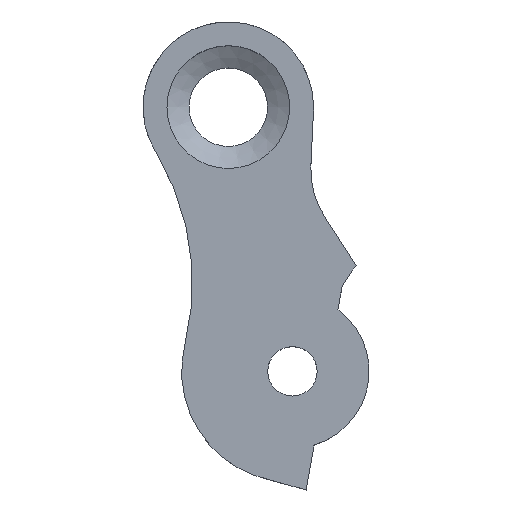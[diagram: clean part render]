
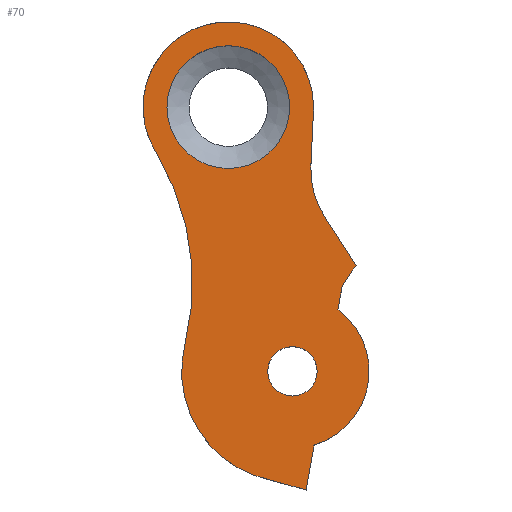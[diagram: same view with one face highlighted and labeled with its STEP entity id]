
A CAD part, top view. The second image highlights one B-rep face of the part: STEP entity #70.
In plain terms, the highlighted planar face has unit normal (0, 0, 1).
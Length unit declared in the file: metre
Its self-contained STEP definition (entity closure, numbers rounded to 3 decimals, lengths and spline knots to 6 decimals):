
#70 = ADVANCED_FACE( 'NONE', ( #145, #146, #147 ), #148, .T. );
#145 = FACE_OUTER_BOUND( '', #223, .T. );
#146 = FACE_BOUND( '', #224, .T. );
#147 = FACE_BOUND( '', #225, .T. );
#148 = PLANE( '', #226 );
#223 = EDGE_LOOP( '', ( #348, #349, #350, #351, #352, #353, #354, #355, #356, #357, #358 ) );
#224 = EDGE_LOOP( '', ( #359 ) );
#225 = EDGE_LOOP( '', ( #360 ) );
#226 = AXIS2_PLACEMENT_3D( '', #361, #362, #363 );
#348 = ORIENTED_EDGE( '', *, *, #420, .F. );
#349 = ORIENTED_EDGE( '', *, *, #425, .F. );
#350 = ORIENTED_EDGE( '', *, *, #415, .F. );
#351 = ORIENTED_EDGE( '', *, *, #458, .T. );
#352 = ORIENTED_EDGE( '', *, *, #441, .F. );
#353 = ORIENTED_EDGE( '', *, *, #464, .F. );
#354 = ORIENTED_EDGE( '', *, *, #428, .F. );
#355 = ORIENTED_EDGE( '', *, *, #465, .T. );
#356 = ORIENTED_EDGE( '', *, *, #438, .T. );
#357 = ORIENTED_EDGE( '', *, *, #454, .T. );
#358 = ORIENTED_EDGE( '', *, *, #462, .T. );
#359 = ORIENTED_EDGE( '', *, *, #449, .F. );
#360 = ORIENTED_EDGE( '', *, *, #446, .F. );
#361 = CARTESIAN_POINT( '', ( -0.011738, 0., 0.01466 ) );
#362 = DIRECTION( '', ( 0., 0., 1. ) );
#363 = DIRECTION( '', ( 1., 0., 0. ) );
#415 = EDGE_CURVE( 'NONE', #477, #478, #479, .T. );
#420 = EDGE_CURVE( 'NONE', #486, #487, #488, .T. );
#425 = EDGE_CURVE( 'NONE', #478, #486, #495, .T. );
#428 = EDGE_CURVE( 'NONE', #498, #499, #500, .T. );
#438 = EDGE_CURVE( 'NONE', #517, #515, #518, .T. );
#441 = EDGE_CURVE( 'NONE', #521, #522, #523, .T. );
#446 = EDGE_CURVE( '', #530, #530, #531, .T. );
#449 = EDGE_CURVE( 'NONE', #535, #535, #536, .T. );
#454 = EDGE_CURVE( 'NONE', #515, #542, #544, .T. );
#458 = EDGE_CURVE( 'NONE', #477, #522, #549, .T. );
#462 = EDGE_CURVE( 'NONE', #542, #487, #553, .T. );
#464 = EDGE_CURVE( 'NONE', #499, #521, #555, .T. );
#465 = EDGE_CURVE( 'NONE', #498, #517, #556, .T. );
#477 = VERTEX_POINT( 'NONE', #570 );
#478 = VERTEX_POINT( 'NONE', #571 );
#479 = LINE( '', #572, #573 );
#486 = VERTEX_POINT( 'NONE', #583 );
#487 = VERTEX_POINT( 'NONE', #584 );
#488 = LINE( '', #585, #586 );
#495 = CIRCLE( '', #596, 0.005 );
#498 = VERTEX_POINT( 'NONE', #599 );
#499 = VERTEX_POINT( 'NONE', #600 );
#500 = LINE( '', #601, #602 );
#515 = VERTEX_POINT( 'NONE', #620 );
#517 = VERTEX_POINT( 'NONE', #623 );
#518 = CIRCLE( '', #624, 0.0045 );
#521 = VERTEX_POINT( 'NONE', #628 );
#522 = VERTEX_POINT( 'NONE', #629 );
#523 = CIRCLE( '', #630, 0.014865 );
#530 = VERTEX_POINT( '', #639 );
#531 = CIRCLE( '', #640, 0.00145 );
#535 = VERTEX_POINT( '', #644 );
#536 = CIRCLE( '', #645, 0.0036 );
#542 = VERTEX_POINT( 'NONE', #652 );
#544 = LINE( '', #655, #656 );
#549 = CIRCLE( '', #661, 0.005 );
#553 = CIRCLE( '', #665, 0.010131 );
#555 = CIRCLE( '', #667, 0.0065 );
#556 = LINE( '', #668, #669 );
#570 = CARTESIAN_POINT( '', ( -0.010506, 0.015264, 0.01466 ) );
#571 = CARTESIAN_POINT( '', ( -0.010657, 0.012045, 0.01466 ) );
#572 = CARTESIAN_POINT( '', ( -0.011227, -0.000024, 0.01466 ) );
#573 = VECTOR( '', #683, 1. );
#583 = CARTESIAN_POINT( '', ( -0.009865, 0.009101, 0.01466 ) );
#584 = CARTESIAN_POINT( '', ( -0.008003, 0.006212, 0.01466 ) );
#585 = CARTESIAN_POINT( '', ( -0.006271, 0.003525, 0.01466 ) );
#586 = VECTOR( '', #687, 1. );
#596 = AXIS2_PLACEMENT_3D( '', #691, #692, #693 );
#599 = CARTESIAN_POINT( '', ( -0.010933, -0.006954, 0.01466 ) );
#600 = CARTESIAN_POINT( '', ( -0.013136, -0.006348, 0.01466 ) );
#601 = CARTESIAN_POINT( '', ( -0.013459, -0.006259, 0.01466 ) );
#602 = VECTOR( '', #697, 1. );
#620 = CARTESIAN_POINT( '', ( -0.009068, 0.003623, 0.01466 ) );
#623 = CARTESIAN_POINT( '', ( -0.010468, -0.004317, 0.01466 ) );
#624 = AXIS2_PLACEMENT_3D( '', #711, #712, #713 );
#628 = CARTESIAN_POINT( '', ( -0.018045, 0.001573, 0.01466 ) );
#629 = CARTESIAN_POINT( '', ( -0.019771, 0.0129, 0.01466 ) );
#630 = AXIS2_PLACEMENT_3D( '', #715, #716, #717 );
#639 = CARTESIAN_POINT( '', ( -0.010288, 0., 0.01466 ) );
#640 = AXIS2_PLACEMENT_3D( '', #723, #724, #725 );
#644 = CARTESIAN_POINT( '', ( -0.0119, 0.0155, 0.01466 ) );
#645 = AXIS2_PLACEMENT_3D( '', #729, #730, #731 );
#652 = CARTESIAN_POINT( '', ( -0.008832, 0.004962, 0.01466 ) );
#655 = CARTESIAN_POINT( '', ( -0.008604, 0.006259, 0.01466 ) );
#656 = VECTOR( '', #737, 1. );
#661 = AXIS2_PLACEMENT_3D( '', #741, #742, #743 );
#665 = AXIS2_PLACEMENT_3D( '', #750, #751, #752 );
#667 = AXIS2_PLACEMENT_3D( '', #753, #754, #755 );
#668 = CARTESIAN_POINT( '', ( -0.010468, -0.004317, 0.01466 ) );
#669 = VECTOR( '', #756, 1. );
#683 = DIRECTION( '', ( -0.047, -0.999, 0. ) );
#687 = DIRECTION( '', ( 0.542, -0.84, 0. ) );
#691 = CARTESIAN_POINT( '', ( -0.005663, 0.01181, 0.01466 ) );
#692 = DIRECTION( '', ( 0., 0., 1. ) );
#693 = DIRECTION( '', ( 1., 0., 0. ) );
#697 = DIRECTION( '', ( -0.964, 0.265, 0. ) );
#711 = CARTESIAN_POINT( '', ( -0.011738, 0., 0.01466 ) );
#712 = DIRECTION( '', ( 0., 0., 1. ) );
#713 = DIRECTION( '', ( 1., 0., 0. ) );
#715 = CARTESIAN_POINT( '', ( -0.032468, 0.00517, 0.01466 ) );
#716 = DIRECTION( '', ( 0., 0., 1. ) );
#717 = DIRECTION( '', ( 1., 0., 0. ) );
#723 = CARTESIAN_POINT( '', ( -0.011738, 0., 0.01466 ) );
#724 = DIRECTION( '', ( 0., 0., 1. ) );
#725 = DIRECTION( '', ( 1., 0., 0. ) );
#729 = CARTESIAN_POINT( '', ( -0.0155, 0.0155, 0.01466 ) );
#730 = DIRECTION( '', ( 0., 0., 1. ) );
#731 = DIRECTION( '', ( 1., 0., 0. ) );
#737 = DIRECTION( '', ( 0.174, 0.985, 0. ) );
#741 = CARTESIAN_POINT( '', ( -0.0155, 0.0155, 0.01466 ) );
#742 = DIRECTION( '', ( 0., 0., 1. ) );
#743 = DIRECTION( '', ( 1., 0., 0. ) );
#750 = CARTESIAN_POINT( '', ( 0., 0., 0.01466 ) );
#751 = DIRECTION( '', ( 0., 0., -1. ) );
#752 = DIRECTION( '', ( 1., 0., 0. ) );
#753 = CARTESIAN_POINT( '', ( -0.011738, 0., 0.01466 ) );
#754 = DIRECTION( '', ( 0., 0., -1. ) );
#755 = DIRECTION( '', ( 1., 0., 0. ) );
#756 = DIRECTION( '', ( 0.174, 0.985, 0. ) );
